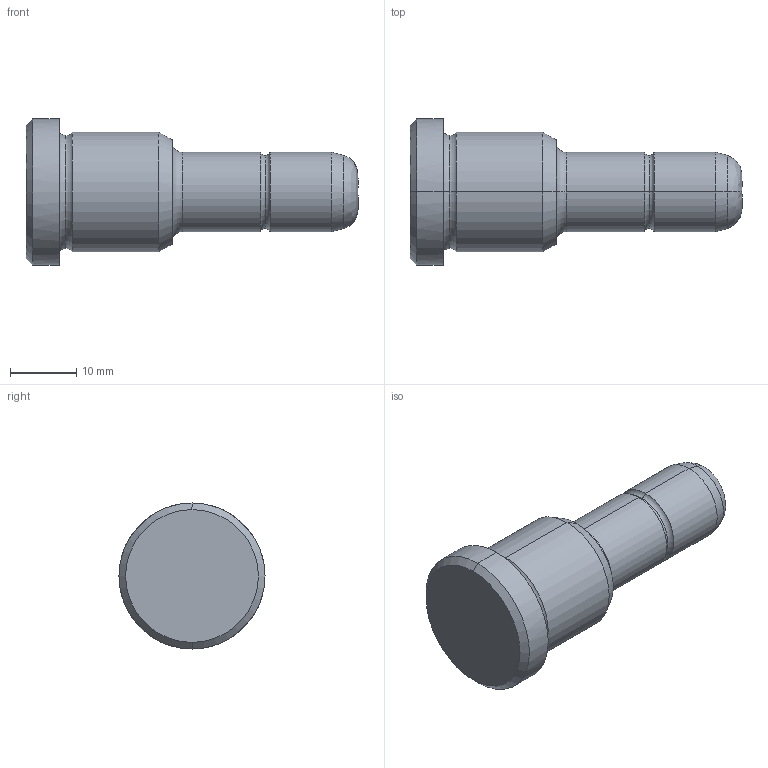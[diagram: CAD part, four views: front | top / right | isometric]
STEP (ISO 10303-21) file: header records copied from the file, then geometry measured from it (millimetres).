
FILE_DESCRIPTION(('CATIA V5 STEP Exchange'),'2;1');
FILE_NAME('C:\Users\Utente\Desktop\IO LAVORO\3D X SITO CF\X SITO\PLASTICA\351\351-12X22X50.stp','2021-08-17T11:49:30+00:00',('none'),('none'),'CATIA Version 5 Release 20 GA (IN-10)','CATIA V5 STEP AP203','none');
FILE_SCHEMA(('CONFIG_CONTROL_DESIGN'));
Length unit declared in the file: millimetre
Products named in the file (1): 351-12X22X50
Bounding box: 50 x 22 x 22 mm (x, y, z)
Volume: 9152.2 mm3; surface area: 2962.6 mm2
Topology: 1 solids, 1 shells, 30 faces, 86 edges, 60 vertices
Faces by surface type: torus 10, cylinder 8, cone 6, plane 4, bspline 2
Entity records: 1128 total; most frequent: CARTESIAN_POINT 343, ORIENTED_EDGE 172, DIRECTION 124, EDGE_CURVE 86, AXIS2_PLACEMENT_3D 83, VERTEX_POINT 60, CIRCLE 54, EDGE_LOOP 32
